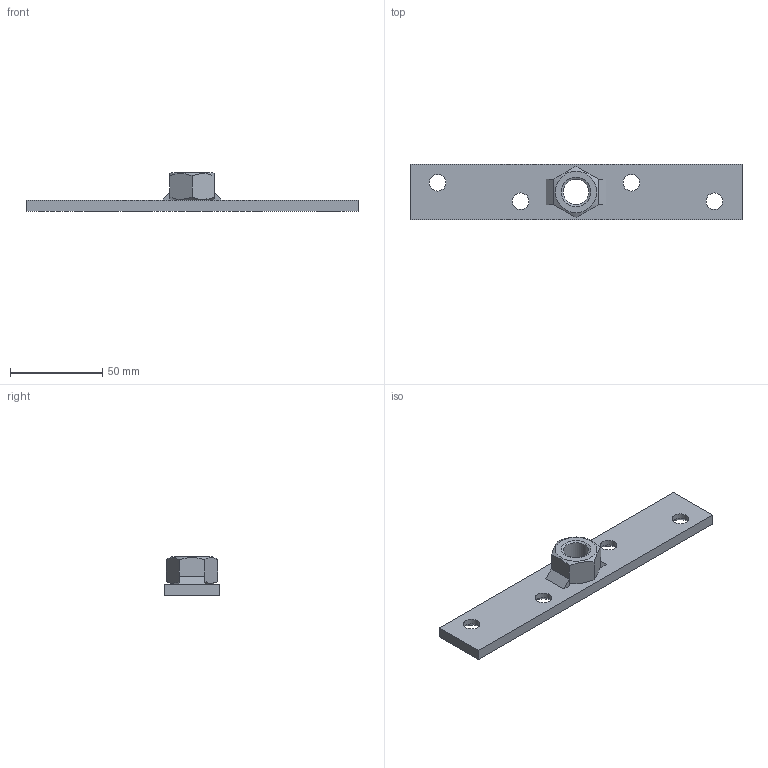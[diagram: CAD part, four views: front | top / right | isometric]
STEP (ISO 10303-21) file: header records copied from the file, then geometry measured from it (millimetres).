
FILE_DESCRIPTION(/* description */ ('Traegerplatte Nr.2'),/* implementation_level */ '2;1');
FILE_NAME(/* name */ 'Q:\sge-ma\Produktmanagement-STB\STB\Workspace\stp\010336620.stp',/* time_stamp */ '2016-07-19T08:48:05+02:00',/* author */ ('avschreier'),/* organization */ (''),/* preprocessor_version */ 'ST-DEVELOPER v16.1',/* originating_system */ 'Autodesk Inventor 2016',/* authorisation */ '');
FILE_SCHEMA (('AUTOMOTIVE_DESIGN { 1 0 10303 214 3 1 1 }'));
Length unit declared in the file: millimetre
Products named in the file (4): 010336620_Schweißnähte; 337000235; DIN_EN_ISO_4032-M16_en; 010336620
Assembly tree (3 placements, depth 2):
  010336620
    010336620_Schweißnähte
    337000235
    DIN_EN_ISO_4032-M16_en
Bounding box: 180 x 30 x 20.8 mm (x, y, z)
Volume: 33828.9 mm3; surface area: 15997.3 mm2
Topology: 4 solids, 4 shells, 43 faces, 99 edges, 65 vertices
Faces by surface type: plane 29, cone 8, cylinder 6
Full cylindrical faces by diameter (mm): 9 x4, 13.835 x1, 19 x1
Entity records: 1224 total; most frequent: CARTESIAN_POINT 214, DIRECTION 188, ORIENTED_EDGE 160, EDGE_CURVE 80, EDGE_LOOP 70, AXIS2_PLACEMENT_3D 70, VERTEX_POINT 60, LINE 48
